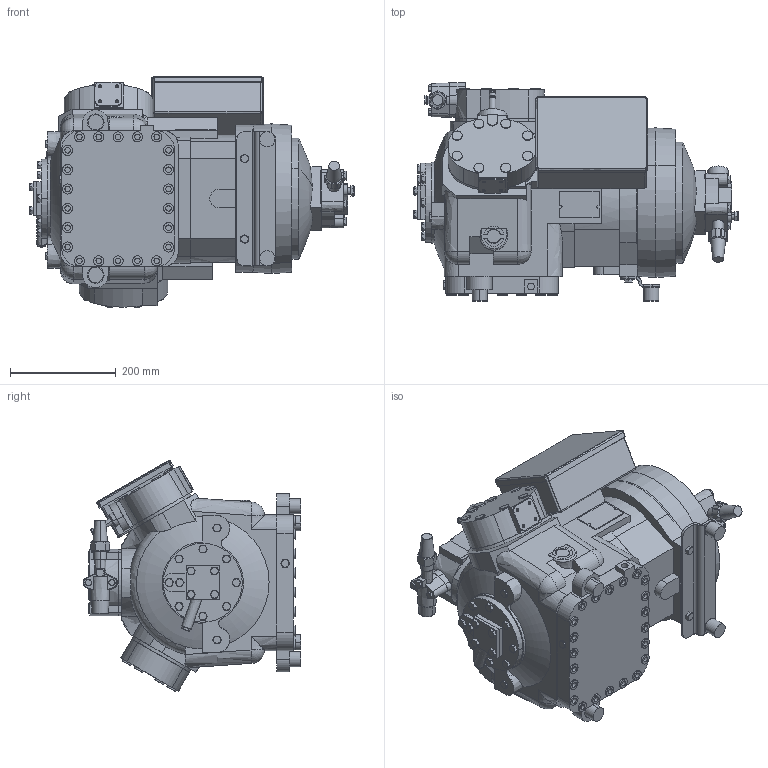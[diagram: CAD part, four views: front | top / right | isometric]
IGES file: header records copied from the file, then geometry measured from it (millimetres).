
Start section:  PTC IGES file: 06d61es3_sv_2.igs
Global section: file name: 06d61es3_sv_2.igs; native system: Pro/ENGINEER by Parametric Technology Corporation; preprocessor: 2003161; author: girish.c; organization: Unknown; date: 040123.140135; units: inch
Bounding box: 613.08 x 412.35 x 437.05 mm (x, y, z)
Surface area: 1402592.8 mm2 (no closed solid volume)
Topology: 0 solids, 0 shells, 1019 faces, 5060 edges, 5060 vertices
Faces by surface type: bspline 544, revolution 475
